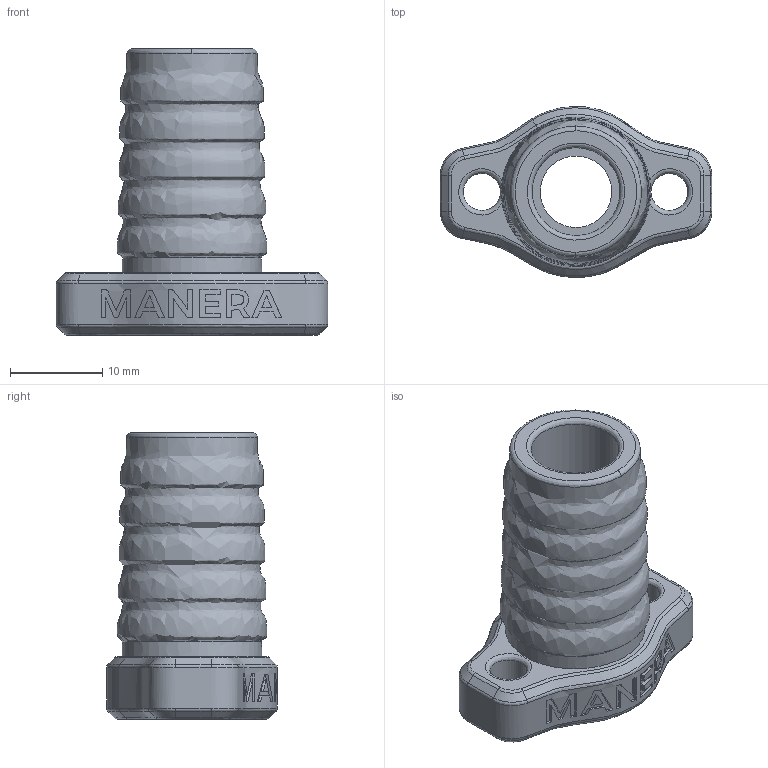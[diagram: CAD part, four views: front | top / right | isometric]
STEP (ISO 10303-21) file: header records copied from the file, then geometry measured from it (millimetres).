
FILE_DESCRIPTION(/* description */ (''),/* implementation_level */ '2;1');
FILE_NAME(/* name */ 'CONNECTOR',/* time_stamp */ '2023-12-20T14:55:45+01:00',/* author */ (''),/* organization */ (''),/* preprocessor_version */ 'ST-DEVELOPER v16.5',/* originating_system */ 'Rhino 7.33',/* authorisation */ '');
FILE_SCHEMA (('CONFIG_CONTROL_DESIGN'));
Length unit declared in the file: millimetre
Products named in the file (1): Document
Bounding box: 29.39 x 18.5 x 30.99 mm (x, y, z)
Volume: 4243.7 mm3; surface area: 3372.3 mm2
Topology: 1 solids, 1 shells, 177 faces, 436 edges, 273 vertices
Faces by surface type: bspline 88, plane 79, cylinder 10
Full cylindrical faces by diameter (mm): 4 x4, 9.5 x1, 10.338 x1
Entity records: 13770 total; most frequent: CARTESIAN_POINT 10960, ORIENTED_EDGE 872, EDGE_CURVE 436, B_SPLINE_CURVE_WITH_KNOTS 275, VERTEX_POINT 273, EDGE_LOOP 195, ADVANCED_FACE 177, FACE_OUTER_BOUND 177
